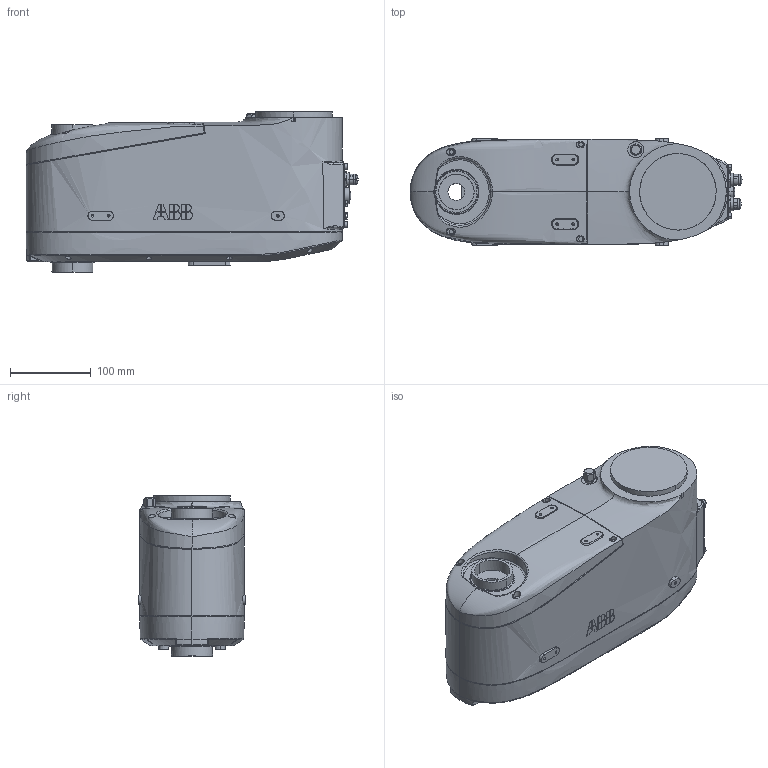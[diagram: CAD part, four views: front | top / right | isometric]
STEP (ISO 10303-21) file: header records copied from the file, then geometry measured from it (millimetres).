
FILE_DESCRIPTION (( 'STEP AP214' ), '1' );
FILE_NAME ('Link2_C550.STEP', '2019-03-25T02:59:01', ( 'ABB' ), ( 'ABB' ), 'SwSTEP 2.0', 'SolidWorks 2016', '' );
FILE_SCHEMA (( 'AUTOMOTIVE_DESIGN' ));
Length unit declared in the file: millimetre
Products named in the file (1): Link2_C550
Bounding box: 412.22 x 134 x 199 mm (x, y, z)
Volume: 7758691.6 mm3; surface area: 281712.5 mm2
Topology: 1 solids, 1 shells, 1055 faces, 2867 edges, 1904 vertices
Faces by surface type: plane 490, bspline 299, cylinder 168, cone 86, torus 10, sphere 2
Entity records: 83640 total; most frequent: CARTESIAN_POINT 59065, ORIENTED_EDGE 5652, DIRECTION 3022, EDGE_CURVE 2826, VERTEX_POINT 1904, B_SPLINE_CURVE_WITH_KNOTS 1494, EDGE_LOOP 1190, LINE 1106
